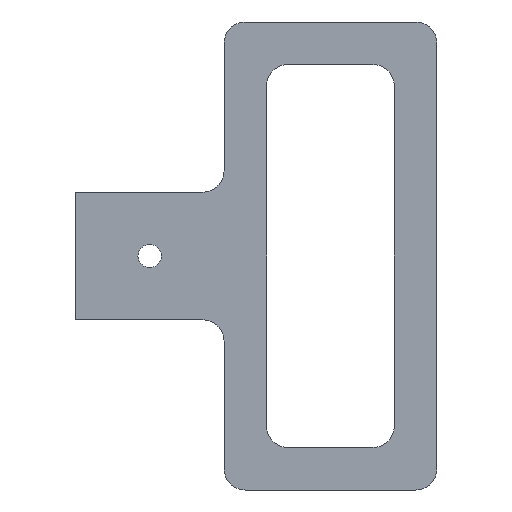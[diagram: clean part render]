
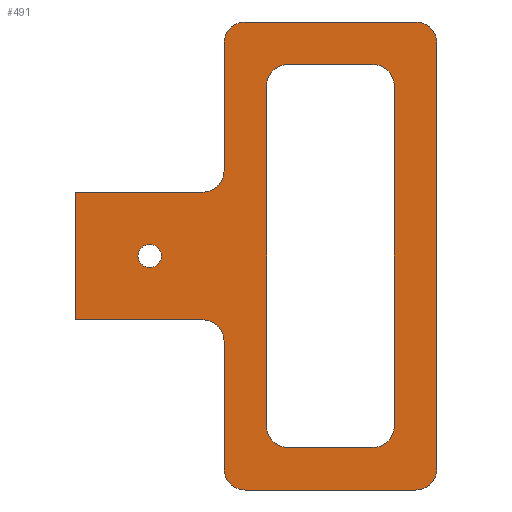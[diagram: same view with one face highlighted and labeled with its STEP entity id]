
A CAD part, left-side view. The second image highlights one B-rep face of the part: STEP entity #491.
In plain terms, the highlighted planar face has unit normal (-1, 0, 0).
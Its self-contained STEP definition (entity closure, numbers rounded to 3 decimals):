
#17=FACE_BOUND('',#85,.T.);
#18=FACE_BOUND('',#86,.T.);
#32=PLANE('',#552);
#57=FACE_OUTER_BOUND('',#84,.T.);
#84=EDGE_LOOP('',(#433,#434,#435,#436,#437,#438,#439,#440,#441,#442,#443,
#444,#445,#446));
#85=EDGE_LOOP('',(#447));
#86=EDGE_LOOP('',(#448,#449,#450,#451,#452,#453,#454,#455));
#89=LINE('',#708,#136);
#95=LINE('',#723,#142);
#99=LINE('',#735,#146);
#102=LINE('',#744,#149);
#105=LINE('',#756,#152);
#112=LINE('',#774,#159);
#121=LINE('',#803,#168);
#124=LINE('',#811,#171);
#128=LINE('',#823,#175);
#131=LINE('',#831,#178);
#132=LINE('',#833,#179);
#133=LINE('',#835,#180);
#136=VECTOR('',#565,10.);
#142=VECTOR('',#579,10.);
#146=VECTOR('',#591,10.);
#149=VECTOR('',#602,10.);
#152=VECTOR('',#613,10.);
#159=VECTOR('',#628,10.);
#168=VECTOR('',#655,10.);
#171=VECTOR('',#664,10.);
#175=VECTOR('',#678,10.);
#178=VECTOR('',#687,10.);
#179=VECTOR('',#690,10.);
#180=VECTOR('',#693,10.);
#181=CIRCLE('',#507,5.);
#183=CIRCLE('',#511,5.);
#185=CIRCLE('',#515,5.);
#187=CIRCLE('',#519,5.);
#189=CIRCLE('',#523,5.);
#192=CIRCLE('',#528,5.);
#198=CIRCLE('',#537,5.);
#199=CIRCLE('',#540,5.);
#200=CIRCLE('',#543,5.);
#201=CIRCLE('',#545,5.);
#202=CIRCLE('',#548,2.75);
#203=VERTEX_POINT('',#698);
#204=VERTEX_POINT('',#699);
#207=VERTEX_POINT('',#707);
#209=VERTEX_POINT('',#713);
#210=VERTEX_POINT('',#714);
#213=VERTEX_POINT('',#725);
#214=VERTEX_POINT('',#726);
#217=VERTEX_POINT('',#737);
#219=VERTEX_POINT('',#746);
#220=VERTEX_POINT('',#747);
#223=VERTEX_POINT('',#755);
#227=VERTEX_POINT('',#764);
#228=VERTEX_POINT('',#766);
#230=VERTEX_POINT('',#772);
#240=VERTEX_POINT('',#797);
#241=VERTEX_POINT('',#801);
#242=VERTEX_POINT('',#805);
#243=VERTEX_POINT('',#809);
#244=VERTEX_POINT('',#813);
#245=VERTEX_POINT('',#817);
#246=VERTEX_POINT('',#818);
#247=VERTEX_POINT('',#825);
#248=VERTEX_POINT('',#829);
#249=EDGE_CURVE('',#203,#204,#181,.T.);
#253=EDGE_CURVE('',#204,#207,#89,.T.);
#256=EDGE_CURVE('',#209,#210,#183,.T.);
#261=EDGE_CURVE('',#210,#203,#95,.T.);
#262=EDGE_CURVE('',#213,#214,#185,.T.);
#267=EDGE_CURVE('',#214,#209,#99,.T.);
#268=EDGE_CURVE('',#207,#217,#187,.T.);
#272=EDGE_CURVE('',#217,#213,#102,.T.);
#273=EDGE_CURVE('',#219,#220,#189,.T.);
#277=EDGE_CURVE('',#220,#223,#105,.T.);
#282=EDGE_CURVE('',#227,#228,#192,.T.);
#286=EDGE_CURVE('',#230,#227,#112,.T.);
#299=EDGE_CURVE('',#240,#230,#198,.T.);
#301=EDGE_CURVE('',#241,#240,#121,.T.);
#303=EDGE_CURVE('',#242,#241,#199,.T.);
#305=EDGE_CURVE('',#243,#242,#124,.T.);
#307=EDGE_CURVE('',#244,#243,#200,.T.);
#308=EDGE_CURVE('',#245,#246,#201,.T.);
#311=EDGE_CURVE('',#246,#244,#128,.T.);
#312=EDGE_CURVE('',#247,#247,#202,.T.);
#315=EDGE_CURVE('',#248,#245,#131,.T.);
#316=EDGE_CURVE('',#223,#248,#132,.T.);
#317=EDGE_CURVE('',#228,#219,#133,.T.);
#433=ORIENTED_EDGE('',*,*,#282,.F.);
#434=ORIENTED_EDGE('',*,*,#286,.F.);
#435=ORIENTED_EDGE('',*,*,#299,.F.);
#436=ORIENTED_EDGE('',*,*,#301,.F.);
#437=ORIENTED_EDGE('',*,*,#303,.F.);
#438=ORIENTED_EDGE('',*,*,#305,.F.);
#439=ORIENTED_EDGE('',*,*,#307,.F.);
#440=ORIENTED_EDGE('',*,*,#311,.F.);
#441=ORIENTED_EDGE('',*,*,#308,.F.);
#442=ORIENTED_EDGE('',*,*,#315,.F.);
#443=ORIENTED_EDGE('',*,*,#316,.F.);
#444=ORIENTED_EDGE('',*,*,#277,.F.);
#445=ORIENTED_EDGE('',*,*,#273,.F.);
#446=ORIENTED_EDGE('',*,*,#317,.F.);
#447=ORIENTED_EDGE('',*,*,#312,.T.);
#448=ORIENTED_EDGE('',*,*,#256,.F.);
#449=ORIENTED_EDGE('',*,*,#267,.F.);
#450=ORIENTED_EDGE('',*,*,#262,.F.);
#451=ORIENTED_EDGE('',*,*,#272,.F.);
#452=ORIENTED_EDGE('',*,*,#268,.F.);
#453=ORIENTED_EDGE('',*,*,#253,.F.);
#454=ORIENTED_EDGE('',*,*,#249,.F.);
#455=ORIENTED_EDGE('',*,*,#261,.F.);
#491=ADVANCED_FACE('',(#57,#17,#18),#32,.F.);
#507=AXIS2_PLACEMENT_3D('',#700,#557,#558);
#511=AXIS2_PLACEMENT_3D('',#715,#570,#571);
#515=AXIS2_PLACEMENT_3D('',#727,#582,#583);
#519=AXIS2_PLACEMENT_3D('',#738,#594,#595);
#523=AXIS2_PLACEMENT_3D('',#748,#605,#606);
#528=AXIS2_PLACEMENT_3D('',#767,#621,#622);
#537=AXIS2_PLACEMENT_3D('',#799,#650,#651);
#540=AXIS2_PLACEMENT_3D('',#807,#659,#660);
#543=AXIS2_PLACEMENT_3D('',#815,#668,#669);
#545=AXIS2_PLACEMENT_3D('',#819,#672,#673);
#548=AXIS2_PLACEMENT_3D('',#826,#681,#682);
#552=AXIS2_PLACEMENT_3D('',#836,#694,#695);
#557=DIRECTION('center_axis',(-1.,0.,0.));
#558=DIRECTION('ref_axis',(0.,-0.707,-0.707));
#565=DIRECTION('',(0.,0.,1.));
#570=DIRECTION('center_axis',(-1.,0.,0.));
#571=DIRECTION('ref_axis',(0.,0.707,-0.707));
#579=DIRECTION('',(0.,-1.,0.));
#582=DIRECTION('center_axis',(-1.,0.,0.));
#583=DIRECTION('ref_axis',(0.,0.707,0.707));
#591=DIRECTION('',(0.,0.,-1.));
#594=DIRECTION('center_axis',(-1.,0.,0.));
#595=DIRECTION('ref_axis',(0.,-0.707,0.707));
#602=DIRECTION('',(0.,1.,0.));
#605=DIRECTION('center_axis',(-1.,0.,0.));
#606=DIRECTION('ref_axis',(0.,-0.707,0.707));
#613=DIRECTION('',(0.,1.,0.));
#621=DIRECTION('center_axis',(1.,0.,0.));
#622=DIRECTION('ref_axis',(0.,0.707,-0.707));
#628=DIRECTION('',(0.,1.,0.));
#650=DIRECTION('center_axis',(1.,0.,0.));
#651=DIRECTION('ref_axis',(0.,-0.707,-0.707));
#655=DIRECTION('',(0.,0.,-1.));
#659=DIRECTION('center_axis',(1.,0.,0.));
#660=DIRECTION('ref_axis',(0.,-0.707,0.707));
#664=DIRECTION('',(0.,-1.,0.));
#668=DIRECTION('center_axis',(1.,0.,0.));
#669=DIRECTION('ref_axis',(0.,0.707,0.707));
#672=DIRECTION('center_axis',(-1.,0.,0.));
#673=DIRECTION('ref_axis',(0.,-0.707,-0.707));
#678=DIRECTION('',(0.,0.,1.));
#681=DIRECTION('center_axis',(1.,0.,0.));
#682=DIRECTION('ref_axis',(0.,-1.,0.));
#687=DIRECTION('',(0.,-1.,0.));
#690=DIRECTION('',(0.,0.,1.));
#693=DIRECTION('',(0.,0.,1.));
#694=DIRECTION('center_axis',(1.,0.,0.));
#695=DIRECTION('ref_axis',(0.,1.,0.));
#698=CARTESIAN_POINT('',(0.,-70.,-45.));
#699=CARTESIAN_POINT('',(0.,-75.,-40.));
#700=CARTESIAN_POINT('Origin',(0.,-70.,-40.));
#707=CARTESIAN_POINT('',(0.,-75.,40.));
#708=CARTESIAN_POINT('',(0.,-75.,-45.));
#713=CARTESIAN_POINT('',(0.,-45.,-40.));
#714=CARTESIAN_POINT('',(0.,-50.,-45.));
#715=CARTESIAN_POINT('Origin',(0.,-50.,-40.));
#723=CARTESIAN_POINT('',(0.,-45.,-45.));
#725=CARTESIAN_POINT('',(0.,-50.,45.));
#726=CARTESIAN_POINT('',(0.,-45.,40.));
#727=CARTESIAN_POINT('Origin',(0.,-50.,40.));
#735=CARTESIAN_POINT('',(0.,-45.,45.));
#737=CARTESIAN_POINT('',(0.,-70.,45.));
#738=CARTESIAN_POINT('Origin',(0.,-70.,40.));
#744=CARTESIAN_POINT('',(0.,-75.,45.));
#746=CARTESIAN_POINT('',(0.,-35.,-20.));
#747=CARTESIAN_POINT('',(0.,-30.,-15.));
#748=CARTESIAN_POINT('Origin',(0.,-30.,-20.));
#755=CARTESIAN_POINT('',(0.,0.,-15.));
#756=CARTESIAN_POINT('',(0.,-35.,-15.));
#764=CARTESIAN_POINT('',(0.,-40.,-55.));
#766=CARTESIAN_POINT('',(0.,-35.,-50.));
#767=CARTESIAN_POINT('Origin',(0.,-40.,-50.));
#772=CARTESIAN_POINT('',(0.,-80.,-55.));
#774=CARTESIAN_POINT('',(0.,-85.,-55.));
#797=CARTESIAN_POINT('',(0.,-85.,-50.));
#799=CARTESIAN_POINT('Origin',(0.,-80.,-50.));
#801=CARTESIAN_POINT('',(0.,-85.,50.));
#803=CARTESIAN_POINT('',(0.,-85.,55.));
#805=CARTESIAN_POINT('',(0.,-80.,55.));
#807=CARTESIAN_POINT('Origin',(0.,-80.,50.));
#809=CARTESIAN_POINT('',(0.,-40.,55.));
#811=CARTESIAN_POINT('',(0.,-35.,55.));
#813=CARTESIAN_POINT('',(0.,-35.,50.));
#815=CARTESIAN_POINT('Origin',(0.,-40.,50.));
#817=CARTESIAN_POINT('',(0.,-30.,15.));
#818=CARTESIAN_POINT('',(0.,-35.,20.));
#819=CARTESIAN_POINT('Origin',(0.,-30.,20.));
#823=CARTESIAN_POINT('',(0.,-35.,15.));
#825=CARTESIAN_POINT('',(0.,-14.75,0.));
#826=CARTESIAN_POINT('Origin',(0.,-17.5,0.));
#829=CARTESIAN_POINT('',(0.,0.,15.));
#831=CARTESIAN_POINT('',(0.,0.,15.));
#833=CARTESIAN_POINT('',(0.,0.,-15.));
#835=CARTESIAN_POINT('',(0.,-35.,-55.));
#836=CARTESIAN_POINT('Origin',(0.,-42.5,0.));
